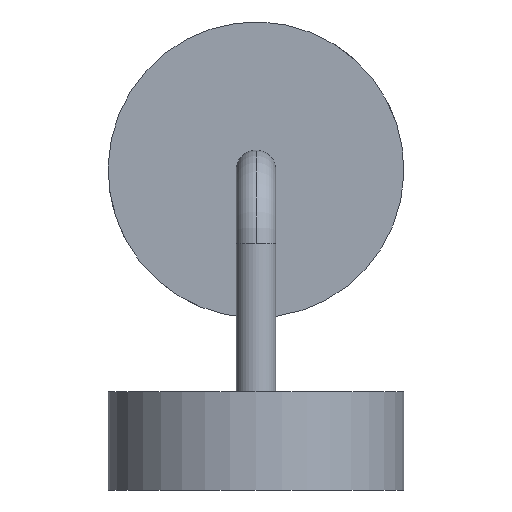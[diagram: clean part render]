
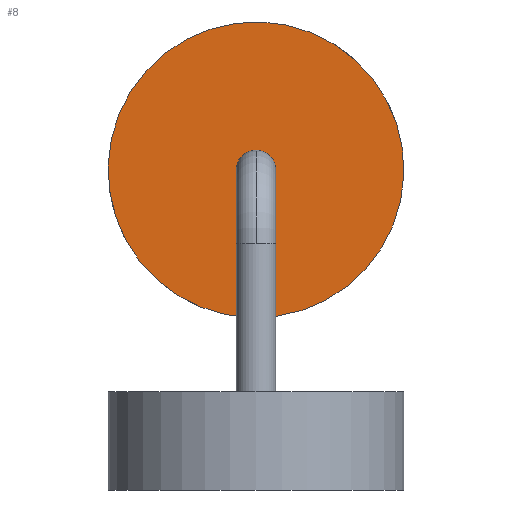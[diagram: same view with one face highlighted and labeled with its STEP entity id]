
A CAD part, front view. The second image highlights one B-rep face of the part: STEP entity #8.
In plain terms, the highlighted planar face has unit normal (0, -1, 0).
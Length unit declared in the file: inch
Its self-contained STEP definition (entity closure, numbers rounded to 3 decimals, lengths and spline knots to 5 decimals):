
#8 = ADVANCED_FACE ( 'NONE', ( #94 ), #129, .F. ) ;
#28 = AXIS2_PLACEMENT_3D ( 'NONE', #397, #150, #86 ) ;
#38 = EDGE_CURVE ( 'NONE', #106, #345, #90, .T. ) ;
#81 = AXIS2_PLACEMENT_3D ( 'NONE', #425, #161, #92 ) ;
#86 = DIRECTION ( 'NONE',  ( -0.617, 0., 0.787 ) ) ;
#90 = CIRCLE ( 'NONE', #81, 2.3622 ) ;
#92 = DIRECTION ( 'NONE',  ( -0.617, 0., 0.787 ) ) ;
#94 = FACE_OUTER_BOUND ( 'NONE', #278, .T. ) ;
#106 = VERTEX_POINT ( 'NONE', #309 ) ;
#121 = CARTESIAN_POINT ( 'NONE',  ( 1.9044, 0.44036, 8.3975 ) ) ;
#129 = PLANE ( 'NONE',  #28 ) ;
#140 = CIRCLE ( 'NONE', #319, 2.3622 ) ;
#150 = DIRECTION ( 'NONE',  ( 0., 1., 0. ) ) ;
#158 = ORIENTED_EDGE ( 'NONE', *, *, #435, .F. ) ;
#161 = DIRECTION ( 'NONE',  ( 0., 1., 0. ) ) ;
#222 = DIRECTION ( 'NONE',  ( 0., 1., 0. ) ) ;
#261 = CARTESIAN_POINT ( 'NONE',  ( 0.4462, 0.44036, 10.25591 ) ) ;
#278 = EDGE_LOOP ( 'NONE', ( #158, #424 ) ) ;
#309 = CARTESIAN_POINT ( 'NONE',  ( -1.01201, 0.44036, 12.11431 ) ) ;
#319 = AXIS2_PLACEMENT_3D ( 'NONE', #261, #222, #403 ) ;
#345 = VERTEX_POINT ( 'NONE', #121 ) ;
#397 = CARTESIAN_POINT ( 'NONE',  ( 0.4462, 0.44036, 10.25591 ) ) ;
#403 = DIRECTION ( 'NONE',  ( -0.617, 0., 0.787 ) ) ;
#424 = ORIENTED_EDGE ( 'NONE', *, *, #38, .F. ) ;
#425 = CARTESIAN_POINT ( 'NONE',  ( 0.4462, 0.44036, 10.25591 ) ) ;
#435 = EDGE_CURVE ( 'NONE', #345, #106, #140, .T. ) ;
